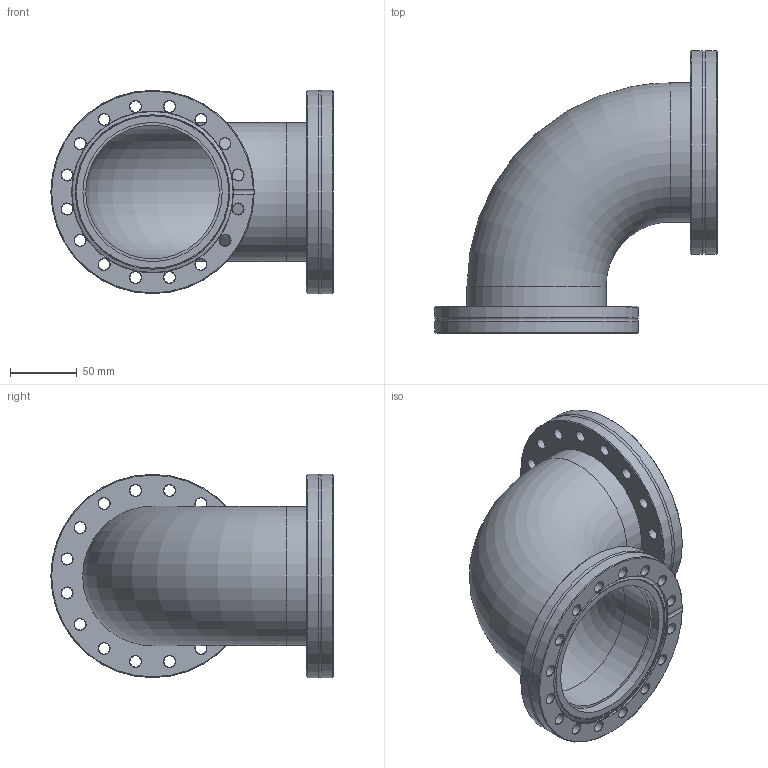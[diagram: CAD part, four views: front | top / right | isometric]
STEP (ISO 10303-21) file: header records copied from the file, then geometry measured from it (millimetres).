
FILE_DESCRIPTION((''),'2;1');
FILE_NAME('W:\13785_CF_Global_Fit_Umsetzung\151_Elbow_90_Grad\M213-304.stp','2010-09-01T13:37:51',('KAA'),(''),'Autodesk Inventor 2011','Autodesk Inventor 2011','');
FILE_SCHEMA(('AUTOMOTIVE_DESIGN { 1 0 10303 214 1 1 1 1 }'));
Length unit declared in the file: millimetre
Products named in the file (1): 213-304
Bounding box: 211 x 211 x 152 mm (x, y, z)
Volume: 470334.5 mm3; surface area: 227010.4 mm2
Topology: 1 solids, 1 shells, 150 faces, 368 edges, 228 vertices
Faces by surface type: cone 78, cylinder 49, plane 12, torus 11
Full cylindrical faces by diameter (mm): 8.4 x32, 100 x2, 104 x4, 104.5 x2, 109 x1, 120.4 x1, 120.6 x1, 152 x4
Entity records: 3791 total; most frequent: DIRECTION 666, CARTESIAN_POINT 609, ORIENTED_EDGE 396, EDGE_LOOP 356, AXIS2_PLACEMENT_3D 331, FACE_BOUND 206, EDGE_CURVE 198, VERTEX_POINT 190
